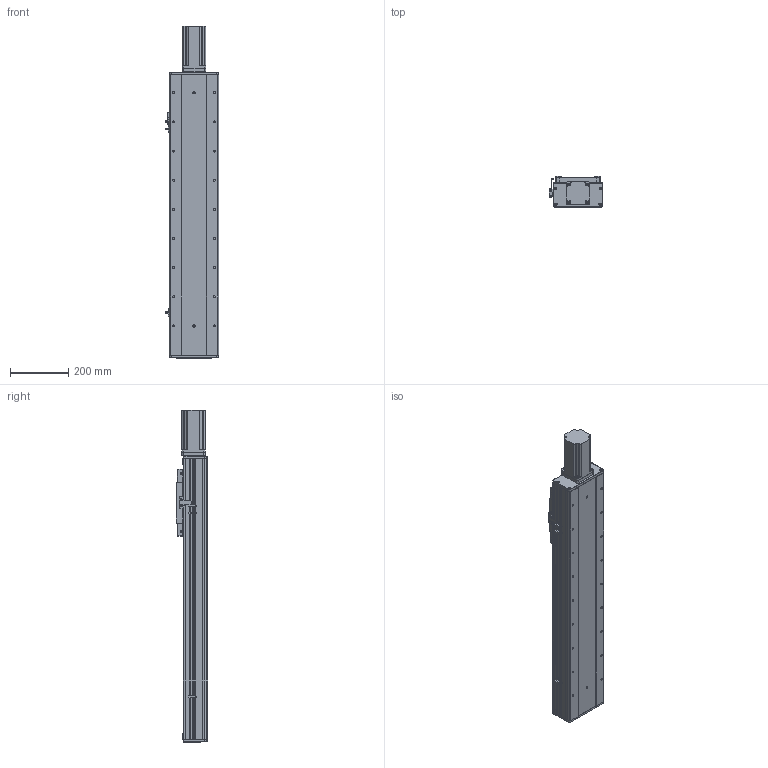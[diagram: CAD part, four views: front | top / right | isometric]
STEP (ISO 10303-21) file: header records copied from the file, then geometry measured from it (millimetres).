
FILE_DESCRIPTION (( 'STEP AP203' ), '1' );
FILE_NAME ('RY170F-L2020-300-MK.SLDASM_650.step', '2021-03-02T06:31:28', ( '盈信电脑' ), ( '东莞市道滘镇水果街19号' ), 'SwSTEP 2.0', 'SolidWorks 2012', '' );
FILE_SCHEMA (( 'CONFIG_CONTROL_DESIGN' ));
Length unit declared in the file: millimetre
Products named in the file (22): RY170F-L2020-300-MK.SLDASM_650; 750W萇儂梓袧蛌諉啣; 侐源滅袉蝶; 怢湛750W萇儂ㄗ80遺ㄘ; 覜茼ん674; RY170F-詩湍揤踡輸; RY170F-揤踡謫假蚾粣; 滅袉蝶18-24; RY100F-詩湍揤踡謫; RY170F俋离覜茼え; RY170F-后盖板(铝件）; 覜茼ん672; 侂狟400W侜督萇儂; RY170F-直连前盖板(铝件）; 15; 滅袉蝶18-10; RY170F-300眻蟀倰第奻裔啣-MK_650; RY170F-滅鳥奻裔; RY170F-佪裝臏賑輸20蹟譫; RY170F-丝杆铝滑块连接板; RY170F-300眻蟀祥凄詩湍-MK_650; RY170F-300眻蟀倰第菁釱-MK_650
Assembly tree (26 placements, depth 3):
  RY170F-L2020-300-MK.SLDASM_650
    RY170F-300眻蟀倰第菁釱-MK_650
    RY170F-300眻蟀祥凄詩湍-MK_650
    RY170F-300眻蟀倰第奻裔啣-MK_650  x2
    RY170F-滅鳥奻裔
    RY170F-佪裝臏賑輸20蹟譫
    RY170F-丝杆铝滑块连接板
    侂狟400W侜督萇儂
      15
    RY170F-直连前盖板(铝件）
    滅袉蝶18-10
    RY100F-詩湍揤踡謫
    RY170F-后盖板(铝件）
    覜茼ん672  x3
    RY170F俋离覜茼え
    RY170F-揤踡謫假蚾粣
    RY170F-詩湍揤踡輸  x2
    滅袉蝶18-24
    750W萇儂梓袧蛌諉啣
    怢湛750W萇儂ㄗ80遺ㄘ
    侐源滅袉蝶  x2
    覜茼ん674
Bounding box: 183.7 x 107 x 1139 mm (x, y, z)
Volume: 6282157.9 mm3; surface area: 1908740.7 mm2
Topology: 25 solids, 25 shells, 2248 faces, 6191 edges, 3962 vertices
Faces by surface type: plane 1001, cylinder 997, cone 232, bspline 18
Entity records: 65871 total; most frequent: CARTESIAN_POINT 12993, DIRECTION 10813, ORIENTED_EDGE 10334, EDGE_CURVE 5167, AXIS2_PLACEMENT_3D 3848, VERTEX_POINT 3382, VECTOR 3117, LINE 3117
